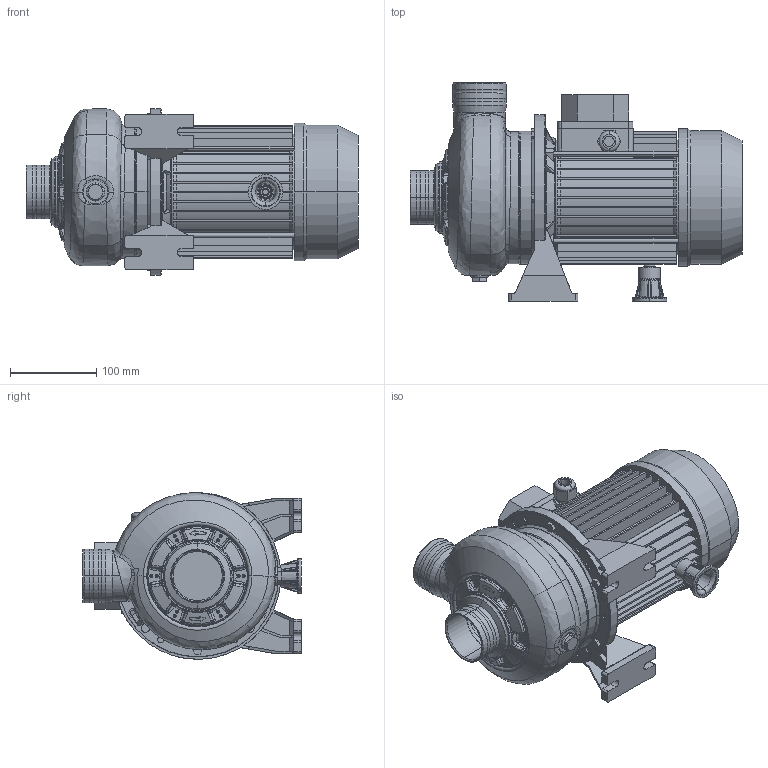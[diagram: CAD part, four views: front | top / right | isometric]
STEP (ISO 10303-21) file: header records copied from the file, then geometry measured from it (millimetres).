
FILE_DESCRIPTION((''),'2;1');
FILE_NAME('DWC_N_500_1_5_IE2_ASM','2011-06-27T',('Utente'),('"Ebara Pumps Europe +39.444.706811"'),'PRO/ENGINEER BY PARAMETRIC TECHNOLOGY CORPORATION, 2009360','PRO/ENGINEER BY PARAMETRIC TECHNOLOGY CORPORATION, 2009360','');
FILE_SCHEMA(('AUTOMOTIVE_DESIGN { 1 0 10303 214 1 1 1 1 }'));
Length unit declared in the file: millimetre
Products named in the file (12): MEC_80X120_IE2; 80596; 251420991; 10054; 76006; 40032; 10192; 62077; 20107_ASM; 72011; 72028; DWC_N_500_1_5_IE2_ASM
Assembly tree (13 placements, depth 3):
  DWC_N_500_1_5_IE2_ASM
    MEC_80X120_IE2
    80596
    20107_ASM
      251420991
      10054
      76006  x2
      40032  x2
      10192
      62077
    72011
    72028
Bounding box: 384.5 x 253 x 192.9 mm (x, y, z)
Volume: 2771038.4 mm3; surface area: 672544.8 mm2
Topology: 12 solids, 12 shells, 1657 faces, 3986 edges, 2402 vertices
Faces by surface type: plane 504, bspline 434, cylinder 284, torus 218, cone 171, sphere 42, extrusion 4
Entity records: 90026 total; most frequent: CARTESIAN_POINT 39615, ORIENTED_EDGE 7790, DIRECTION 6741, EDGE_CURVE 3895, PRESENTATION_STYLE_ASSIGNMENT 3848, STYLED_ITEM 3848, CURVE_STYLE 3839, AXIS2_PLACEMENT_3D 2798
